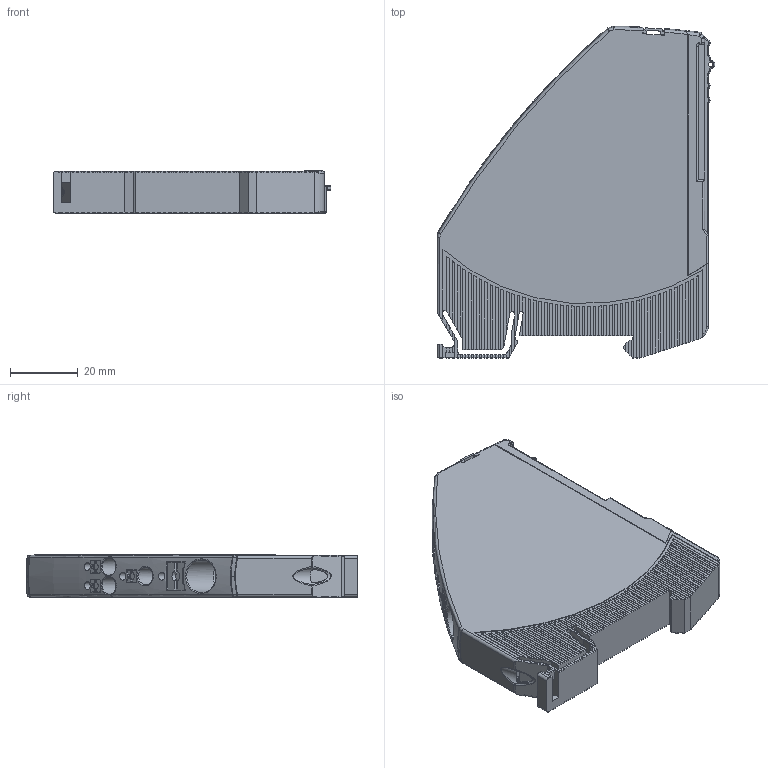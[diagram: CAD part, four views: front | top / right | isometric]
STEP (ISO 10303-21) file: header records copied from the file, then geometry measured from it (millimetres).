
FILE_DESCRIPTION((''),'2;1');
FILE_NAME('T-EM12-T01-XXX','2016-04-22T',('hroth'),(''),'PRO/ENGINEER BY PARAMETRIC TECHNOLOGY CORPORATION, 2014200','PRO/ENGINEER BY PARAMETRIC TECHNOLOGY CORPORATION, 2014200','');
FILE_SCHEMA(('AUTOMOTIVE_DESIGN { 1 0 10303 214 1 1 1 1 }'));
Products named in the file (1): T-EM12-T01-XXX
Bounding box: 81.9 x 97.95 x 12.4 mm (x, y, z)
Volume: 70879.9 mm3; surface area: 20250 mm2
Topology: 1 solids, 1 shells, 1407 faces, 3933 edges, 2572 vertices
Faces by surface type: plane 957, cylinder 288, bspline 73, extrusion 41, torus 37, sphere 9, cone 2
Entity records: 53781 total; most frequent: CARTESIAN_POINT 16078, ORIENTED_EDGE 7866, DIRECTION 6892, EDGE_CURVE 3933, VECTOR 3020, LINE 2979, VERTEX_POINT 2572, AXIS2_PLACEMENT_3D 1936
